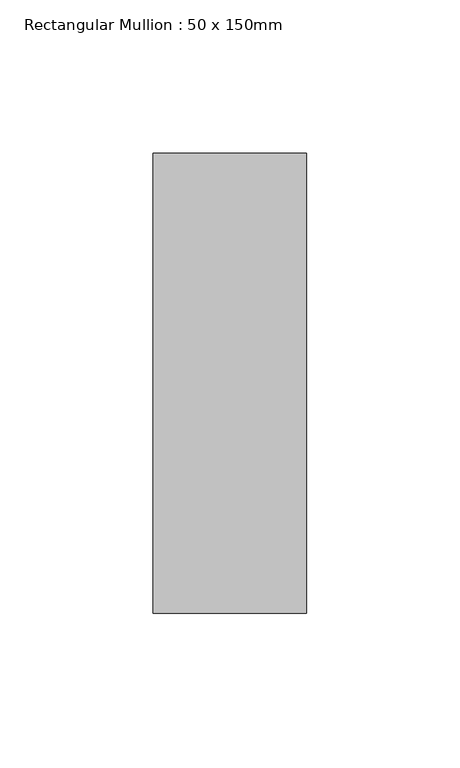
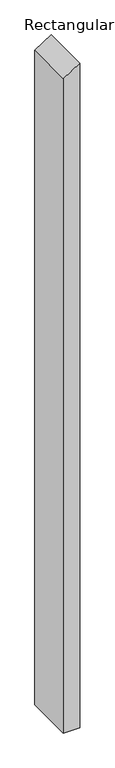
"""IFC4 building model written with IfcOpenShell, lengths in millimetres: member geometry, Rectangular Mullion : 50 x 150mm."""

from ifc_helpers import new_model, si_unit, frame, origin, place, context, project, spatial, polyline, outline, extrude, source, transform, mapped, element, save


def rectangular_mullion_50_x_150mm_9765642b(model_context):
    return source(origin(), model_context, "Body", "SweptSolid", [
        extrude(outline(polyline([(-43.3780246, 25.0), (-75.7358326, -25.0), (-2186.0006888, -25.0), (-2186.0006888, 25.0), (-43.3780246, 25.0)])), frame((0.0, -75.0, 0.0), z_axis=(0.0, 1.0, 0.0), x_axis=(0.0, 0.0, 1.0)), (0.0, 0.0, 1.0), 150.0),
    ])


if __name__ == "__main__":
    model = new_model("IFC4")
    model_context = context("Model", 3, world=origin())
    ifc_project = project(units=[si_unit("LENGTHUNIT", "METRE", prefix="MILLI")], contexts=[model_context])
    site = spatial("IfcSite", under=ifc_project)
    building = spatial("IfcBuilding", under=site)
    placement = place(None, origin())
    rectangular_mullion_50_x_150mm_shape = rectangular_mullion_50_x_150mm_9765642b(model_context)
    element("IfcMember", 1, ObjectType="Rectangular Mullion : 50 x 150mm", at=placement, inside=building, context=model_context, shape_type="MappedRepresentation", body=[
        mapped(rectangular_mullion_50_x_150mm_shape, transform((0.0, 0.0, 0.0), x_axis=(1.0, 0.0, 0.0), y_axis=(0.0, 1.0, 0.0), z_axis=(0.0, 0.0, 1.0))),
    ])
    save(model, "model.ifc")
